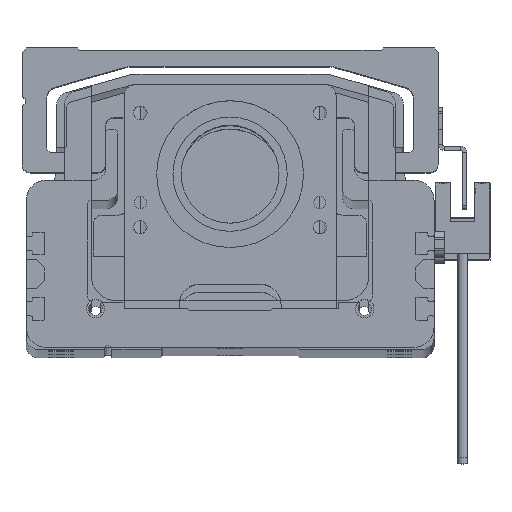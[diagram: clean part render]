
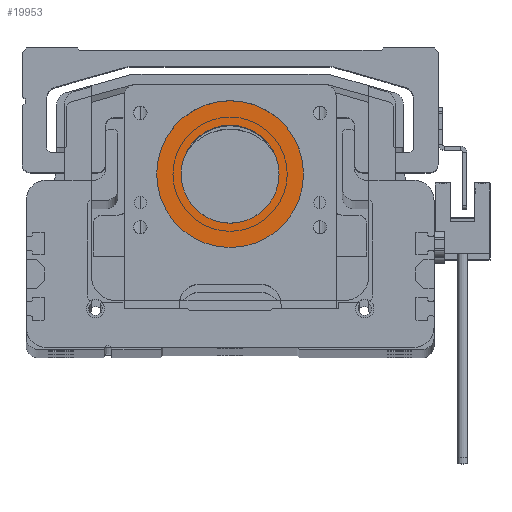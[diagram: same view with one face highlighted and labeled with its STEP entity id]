
A CAD part, top view. The second image highlights one B-rep face of the part: STEP entity #19953.
In plain terms, the highlighted planar face has unit normal (0, 0, 1).
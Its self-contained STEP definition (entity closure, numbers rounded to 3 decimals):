
#234 = CARTESIAN_POINT ( 'NONE',  ( -12., 33., 2.5 ) ) ;
#255 = DIRECTION ( 'NONE',  ( 1., 0., 0. ) ) ;
#861 = EDGE_CURVE ( 'NONE', #1656, #31357, #26634, .T. ) ;
#1347 = CARTESIAN_POINT ( 'NONE',  ( 12., 33., 2.5 ) ) ;
#1656 = VERTEX_POINT ( 'NONE', #11505 ) ;
#2892 = ORIENTED_EDGE ( 'NONE', *, *, #7806, .F. ) ;
#3690 = VERTEX_POINT ( 'NONE', #1347 ) ;
#7806 = EDGE_CURVE ( 'NONE', #3690, #25077, #11197, .T. ) ;
#11197 = CIRCLE ( 'NONE', #28041, 12. ) ;
#11335 = ORIENTED_EDGE ( 'NONE', *, *, #30745, .F. ) ;
#11505 = CARTESIAN_POINT ( 'NONE',  ( 18., 33., 2.5 ) ) ;
#12692 = PLANE ( 'NONE',  #21847 ) ;
#12950 = DIRECTION ( 'NONE',  ( 1., 0., 0. ) ) ;
#13045 = DIRECTION ( 'NONE',  ( 0., 0., 1. ) ) ;
#13299 = CIRCLE ( 'NONE', #26805, 12. ) ;
#13335 = CARTESIAN_POINT ( 'NONE',  ( 0., 33., 2.5 ) ) ;
#13625 = AXIS2_PLACEMENT_3D ( 'NONE', #19199, #19922, #20266 ) ;
#14890 = EDGE_LOOP ( 'NONE', ( #31608, #32930 ) ) ;
#15832 = DIRECTION ( 'NONE',  ( 0., 0., 1. ) ) ;
#17745 = FACE_BOUND ( 'NONE', #25004, .T. ) ;
#18339 = EDGE_CURVE ( 'NONE', #31357, #1656, #18669, .T. ) ;
#18669 = CIRCLE ( 'NONE', #31809, 18. ) ;
#19199 = CARTESIAN_POINT ( 'NONE',  ( 0., 33., 2.5 ) ) ;
#19922 = DIRECTION ( 'NONE',  ( 0., 0., 1. ) ) ;
#19953 = ADVANCED_FACE ( 'NONE', ( #31127, #17745 ), #12692, .T. ) ;
#20266 = DIRECTION ( 'NONE',  ( 1., 0., 0. ) ) ;
#21007 = DIRECTION ( 'NONE',  ( 1., 0., 0. ) ) ;
#21032 = DIRECTION ( 'NONE',  ( 0., 0., 1. ) ) ;
#21073 = CARTESIAN_POINT ( 'NONE',  ( 0., 33., 2.5 ) ) ;
#21847 = AXIS2_PLACEMENT_3D ( 'NONE', #13335, #13045, #12950 ) ;
#25004 = EDGE_LOOP ( 'NONE', ( #2892, #11335 ) ) ;
#25077 = VERTEX_POINT ( 'NONE', #234 ) ;
#26634 = CIRCLE ( 'NONE', #13625, 18. ) ;
#26805 = AXIS2_PLACEMENT_3D ( 'NONE', #30943, #15832, #255 ) ;
#27878 = DIRECTION ( 'NONE',  ( 0., 0., 1. ) ) ;
#27905 = DIRECTION ( 'NONE',  ( 1., 0., 0. ) ) ;
#28041 = AXIS2_PLACEMENT_3D ( 'NONE', #28047, #27878, #27905 ) ;
#28047 = CARTESIAN_POINT ( 'NONE',  ( 0., 33., 2.5 ) ) ;
#29140 = CARTESIAN_POINT ( 'NONE',  ( -18., 33., 2.5 ) ) ;
#30745 = EDGE_CURVE ( 'NONE', #25077, #3690, #13299, .T. ) ;
#30943 = CARTESIAN_POINT ( 'NONE',  ( 0., 33., 2.5 ) ) ;
#31127 = FACE_OUTER_BOUND ( 'NONE', #14890, .T. ) ;
#31357 = VERTEX_POINT ( 'NONE', #29140 ) ;
#31608 = ORIENTED_EDGE ( 'NONE', *, *, #861, .T. ) ;
#31809 = AXIS2_PLACEMENT_3D ( 'NONE', #21073, #21032, #21007 ) ;
#32930 = ORIENTED_EDGE ( 'NONE', *, *, #18339, .T. ) ;
